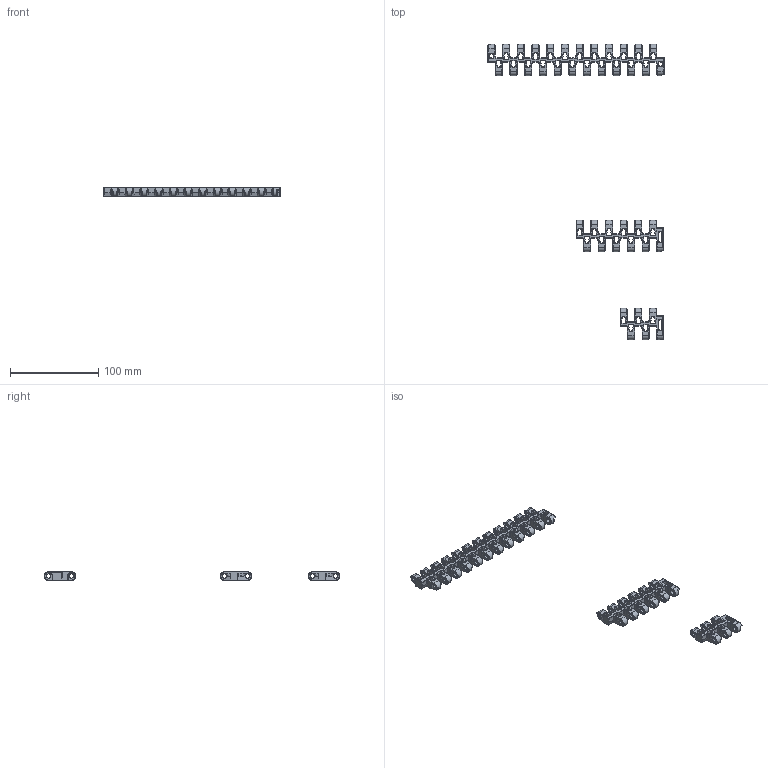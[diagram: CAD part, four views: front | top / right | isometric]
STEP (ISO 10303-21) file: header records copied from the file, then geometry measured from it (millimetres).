
FILE_DESCRIPTION(/* description */ (''),/* implementation_level */ '2;1');
FILE_NAME(/* name */ 'HS-2500B.stp',/* time_stamp */ '2020-10-21T14:44:06+08:00',/* author */ (''),/* organization */ (''),/* preprocessor_version */ 'ST-DEVELOPER v15',/* originating_system */ 'SIEMENS PLM Software NX 8.5',/* authorisation */ '');
FILE_SCHEMA (('AP203_CONFIGURATION_CONTROLLED_3D_DESIGN_OF_MECHANICAL_PARTS_AND_ASSEMBLIES_MIM_LF { 1 0 10303 403 2 1 2}'));
Products named in the file (1): Admi14E062AAizdt
Bounding box: 200.22 x 335.6 x 10.1 mm (x, y, z)
Volume: 43116.5 mm3; surface area: 38458.1 mm2
Topology: 3 solids, 3 shells, 3034 faces, 7694 edges, 4592 vertices
Faces by surface type: bspline 1390, cylinder 682, plane 474, extrusion 446, cone 20, sphere 14, torus 8
Entity records: 144491 total; most frequent: CARTESIAN_POINT 87573, ORIENTED_EDGE 15380, EDGE_CURVE 7690, DIRECTION 6783, VERTEX_POINT 4592, VECTOR 3395, EDGE_LOOP 3132, ADVANCED_FACE 3034
